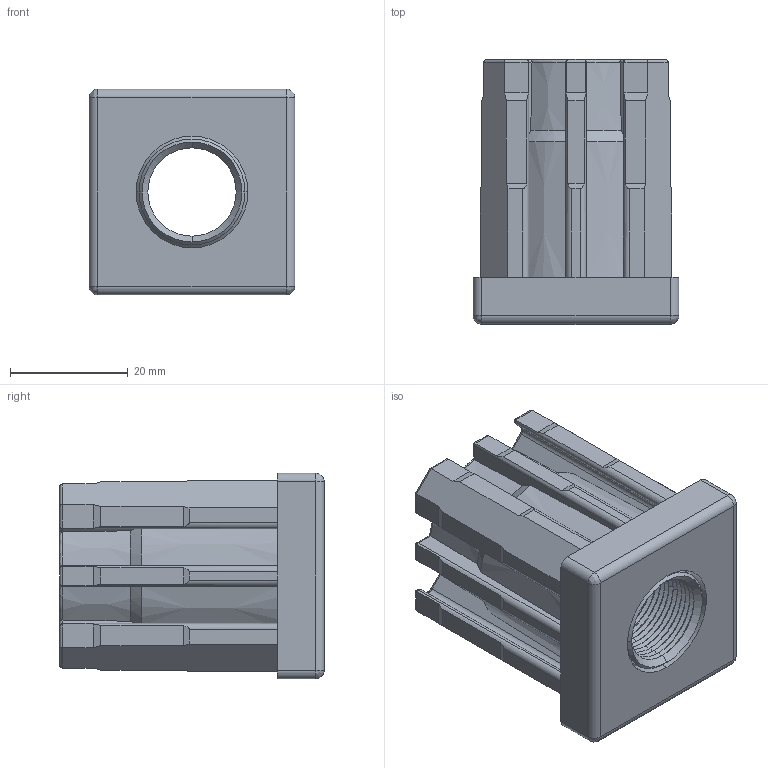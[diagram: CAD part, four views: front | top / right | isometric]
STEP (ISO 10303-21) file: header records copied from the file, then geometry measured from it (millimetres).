
FILE_DESCRIPTION (( 'STEP AP214' ), '1' );
FILE_NAME ('BTC M16.step', '2017-04-05T07:53:27', ( '' ), ( '' ), 'SwSTEP 2.0', 'SolidWorks 2015', '' );
FILE_SCHEMA (( 'AUTOMOTIVE_DESIGN' ));
Length unit declared in the file: millimetre
Products named in the file (1): BTC M16
Bounding box: 35 x 45 x 35 mm (x, y, z)
Volume: 27917.8 mm3; surface area: 15649 mm2
Topology: 2 solids, 2 shells, 342 faces, 885 edges, 546 vertices
Faces by surface type: cone 116, plane 99, cylinder 88, bspline 39
Entity records: 14979 total; most frequent: CARTESIAN_POINT 3200, ORIENTED_EDGE 1762, DIRECTION 1612, EDGE_CURVE 881, AXIS2_PLACEMENT_3D 598, VERTEX_POINT 546, VECTOR 416, LINE 416
